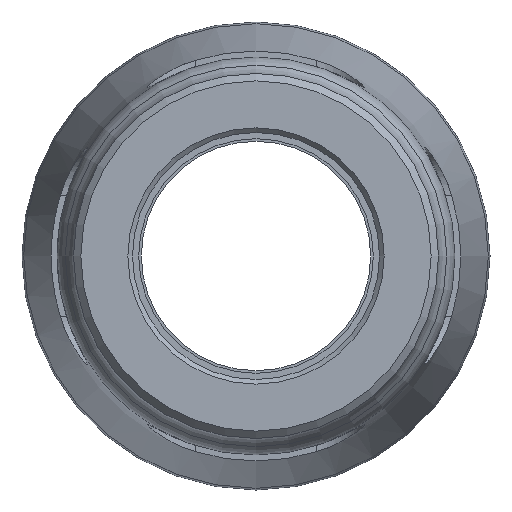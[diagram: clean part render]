
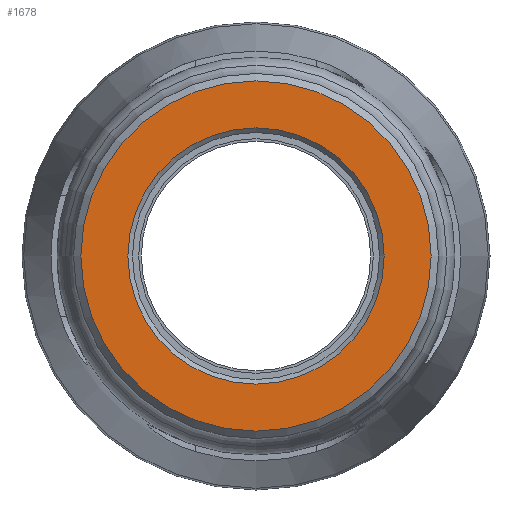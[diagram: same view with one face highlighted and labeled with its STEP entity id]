
A CAD part, left-side view. The second image highlights one B-rep face of the part: STEP entity #1678.
In plain terms, the highlighted planar face has unit normal (-1, 0, 0).
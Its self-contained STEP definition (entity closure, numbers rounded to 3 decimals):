
#23=FACE_BOUND('',#400,.T.);
#55=PLANE('',#1829);
#291=FACE_OUTER_BOUND('',#399,.T.);
#399=EDGE_LOOP('',(#1155));
#400=EDGE_LOOP('',(#1156));
#543=CIRCLE('',#1828,23.273);
#544=CIRCLE('',#1830,31.805);
#714=VERTEX_POINT('',#2896);
#715=VERTEX_POINT('',#2899);
#885=EDGE_CURVE('',#714,#714,#543,.T.);
#886=EDGE_CURVE('',#715,#715,#544,.T.);
#1155=ORIENTED_EDGE('',*,*,#886,.F.);
#1156=ORIENTED_EDGE('',*,*,#885,.F.);
#1678=ADVANCED_FACE('',(#291,#23),#55,.T.);
#1828=AXIS2_PLACEMENT_3D('',#2897,#2109,#2110);
#1829=AXIS2_PLACEMENT_3D('',#2898,#2111,#2112);
#1830=AXIS2_PLACEMENT_3D('',#2900,#2113,#2114);
#2109=DIRECTION('center_axis',(-1.,0.,0.));
#2110=DIRECTION('ref_axis',(0.,-1.,0.));
#2111=DIRECTION('center_axis',(-1.,0.,0.));
#2112=DIRECTION('ref_axis',(0.,0.,1.));
#2113=DIRECTION('center_axis',(1.,0.,0.));
#2114=DIRECTION('ref_axis',(0.,-1.,0.));
#2896=CARTESIAN_POINT('',(0.,23.273,0.));
#2897=CARTESIAN_POINT('Origin',(0.,0.,0.));
#2898=CARTESIAN_POINT('Origin',(0.,33.15,0.));
#2899=CARTESIAN_POINT('',(0.,31.805,0.));
#2900=CARTESIAN_POINT('Origin',(0.,0.,0.));
